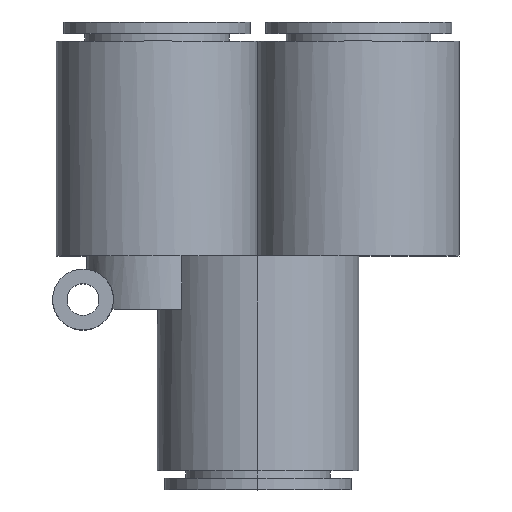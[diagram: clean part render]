
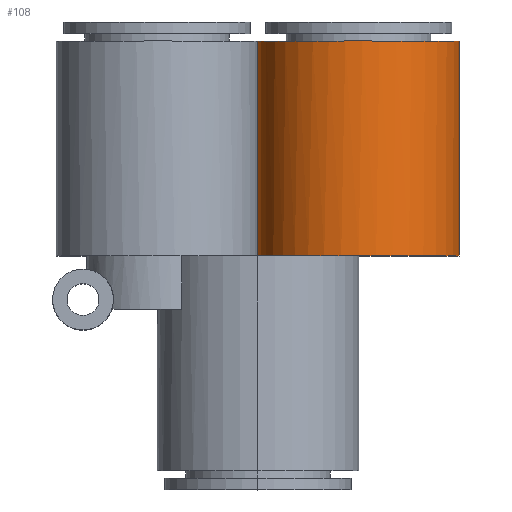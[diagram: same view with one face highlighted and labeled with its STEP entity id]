
A CAD part, top view. The second image highlights one B-rep face of the part: STEP entity #108.
In plain terms, the highlighted cylindrical face has radius 13.25 mm (diameter 26.5 mm), a partial arc.
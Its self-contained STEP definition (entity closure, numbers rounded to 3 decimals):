
#108 = ADVANCED_FACE( '', ( #202 ), #203, .T. );
#202 = FACE_OUTER_BOUND( '', #325, .T. );
#203 = CYLINDRICAL_SURFACE( '', #326, 13.25 );
#325 = EDGE_LOOP( '', ( #633, #634, #635, #636, #637, #638 ) );
#326 = AXIS2_PLACEMENT_3D( '', #639, #640, #641 );
#633 = ORIENTED_EDGE( '', *, *, #841, .T. );
#634 = ORIENTED_EDGE( '', *, *, #904, .F. );
#635 = ORIENTED_EDGE( '', *, *, #895, .F. );
#636 = ORIENTED_EDGE( '', *, *, #907, .F. );
#637 = ORIENTED_EDGE( '', *, *, #909, .F. );
#638 = ORIENTED_EDGE( '', *, *, #908, .T. );
#639 = CARTESIAN_POINT( '', ( 13.25, 44.875, 0. ) );
#640 = DIRECTION( '', ( 0., -1., 0. ) );
#641 = DIRECTION( '', ( 1., 0., 0. ) );
#841 = EDGE_CURVE( '', #1008, #1009, #1010, .T. );
#895 = EDGE_CURVE( '', #1099, #1101, #1102, .T. );
#904 = EDGE_CURVE( '', #1101, #1009, #1112, .T. );
#907 = EDGE_CURVE( '', #1114, #1099, #1116, .T. );
#908 = EDGE_CURVE( '', #1095, #1008, #1117, .T. );
#909 = EDGE_CURVE( '', #1095, #1114, #1118, .T. );
#1008 = VERTEX_POINT( '', #1237 );
#1009 = VERTEX_POINT( '', #1238 );
#1010 = LINE( '', #1239, #1240 );
#1095 = VERTEX_POINT( '', #1492 );
#1099 = VERTEX_POINT( '', #1496 );
#1101 = VERTEX_POINT( '', #1499 );
#1102 = LINE( '', #1500, #1501 );
#1112 = CIRCLE( '', #1515, 13.25 );
#1114 = VERTEX_POINT( '', #1517 );
#1116 = LINE( '', #1519, #1520 );
#1117 = CIRCLE( '', #1521, 13.25 );
#1118 = CIRCLE( '', #1522, 13.25 );
#1237 = CARTESIAN_POINT( '', ( 26.5, 30.75, 0. ) );
#1238 = CARTESIAN_POINT( '', ( 26.5, 59., 0. ) );
#1239 = CARTESIAN_POINT( '', ( 26.5, 44.875, 0. ) );
#1240 = VECTOR( '', #1623, 1. );
#1492 = CARTESIAN_POINT( '', ( 6.625, 30.75, 11.475 ) );
#1496 = CARTESIAN_POINT( '', ( 0.038, 58.8, 0.999 ) );
#1499 = CARTESIAN_POINT( '', ( 0.038, 59., 0.999 ) );
#1500 = CARTESIAN_POINT( '', ( 0.038, 44.875, 0.999 ) );
#1501 = VECTOR( '', #1738, 1. );
#1515 = AXIS2_PLACEMENT_3D( '', #1755, #1756, #1757 );
#1517 = CARTESIAN_POINT( '', ( 0.038, 30.75, 0.999 ) );
#1519 = CARTESIAN_POINT( '', ( 0.038, 44.875, 0.999 ) );
#1520 = VECTOR( '', #1764, 1. );
#1521 = AXIS2_PLACEMENT_3D( '', #1765, #1766, #1767 );
#1522 = AXIS2_PLACEMENT_3D( '', #1768, #1769, #1770 );
#1623 = DIRECTION( '', ( 0., 1., 0. ) );
#1738 = DIRECTION( '', ( 0., 1., 0. ) );
#1755 = CARTESIAN_POINT( '', ( 13.25, 59., 0. ) );
#1756 = DIRECTION( '', ( 0., 1., 0. ) );
#1757 = DIRECTION( '', ( 1., 0., 0. ) );
#1764 = DIRECTION( '', ( 0., 1., 0. ) );
#1765 = CARTESIAN_POINT( '', ( 13.25, 30.75, 0. ) );
#1766 = DIRECTION( '', ( 0., 1., 0. ) );
#1767 = DIRECTION( '', ( 1., 0., 0. ) );
#1768 = CARTESIAN_POINT( '', ( 13.25, 30.75, 0. ) );
#1769 = DIRECTION( '', ( 0., -1., 0. ) );
#1770 = DIRECTION( '', ( 1., 0., 0. ) );
